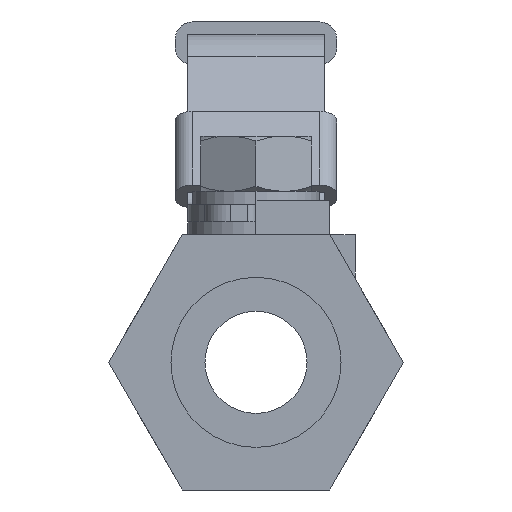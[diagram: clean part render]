
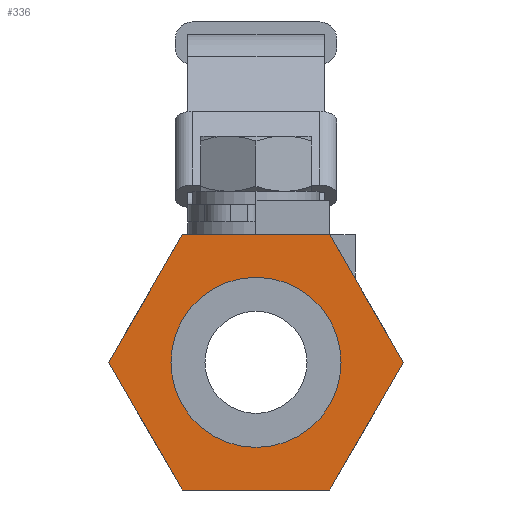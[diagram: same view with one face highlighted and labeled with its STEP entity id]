
A CAD part, left-side view. The second image highlights one B-rep face of the part: STEP entity #336.
In plain terms, the highlighted planar face has unit normal (-1, 0, 0) as drawn and (1, 0, 0) by its records, which use the part's own axes.
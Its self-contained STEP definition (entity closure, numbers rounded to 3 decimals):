
#336=ADVANCED_FACE('',(#1517,#1518),#1516,.F.);
#1516=PLANE('',#2496);
#1517=FACE_OUTER_BOUND('',#2497,.T.);
#1518=FACE_BOUND('',#2498,.T.);
#2493=CARTESIAN_POINT('',(59.,-3.464,-3.));
#2494=DIRECTION('',(-1.,0.,0.));
#2495=DIRECTION('',(0.,0.,1.));
#2496=AXIS2_PLACEMENT_3D('',#2493,#2494,#2495);
#2497=EDGE_LOOP('',(#3222,#3223,#3224,#3225,#3226,#3227));
#2498=EDGE_LOOP('',(#3228,#3229));
#3222=ORIENTED_EDGE('',*,*,#3670,.T.);
#3223=ORIENTED_EDGE('',*,*,#3662,.T.);
#3224=ORIENTED_EDGE('',*,*,#3680,.T.);
#3225=ORIENTED_EDGE('',*,*,#3681,.T.);
#3226=ORIENTED_EDGE('',*,*,#3682,.T.);
#3227=ORIENTED_EDGE('',*,*,#3683,.T.);
#3228=ORIENTED_EDGE('',*,*,#3684,.F.);
#3229=ORIENTED_EDGE('',*,*,#3685,.F.);
#3662=EDGE_CURVE('',#5610,#5603,#5611,.T.);
#3670=EDGE_CURVE('',#5664,#5610,#5665,.T.);
#3680=EDGE_CURVE('',#5603,#5732,#5733,.T.);
#3681=EDGE_CURVE('',#5732,#5739,#5740,.T.);
#3682=EDGE_CURVE('',#5739,#5746,#5747,.T.);
#3683=EDGE_CURVE('',#5746,#5664,#5753,.T.);
#3684=EDGE_CURVE('',#5759,#5760,#5761,.T.);
#3685=EDGE_CURVE('',#5760,#5759,#5767,.T.);
#5603=VERTEX_POINT('',#7329);
#5610=VERTEX_POINT('',#7333);
#5611=LINE('',#7334,#7335);
#5664=VERTEX_POINT('',#7363);
#5665=LINE('',#7364,#7365);
#5732=VERTEX_POINT('',#7403);
#5733=LINE('',#7404,#7405);
#5739=VERTEX_POINT('',#7407);
#5740=LINE('',#7408,#7409);
#5746=VERTEX_POINT('',#7411);
#5747=LINE('',#7412,#7413);
#5753=LINE('',#7415,#7416);
#5759=VERTEX_POINT('',#7418);
#5760=VERTEX_POINT('',#7419);
#5761=CIRCLE('',#7423,10.);
#5767=CIRCLE('',#7427,10.);
#7329=CARTESIAN_POINT('',(59.,8.66,30.));
#7333=CARTESIAN_POINT('',(59.,25.981,30.));
#7334=CARTESIAN_POINT('',(59.,25.981,30.));
#7335=VECTOR('',#7336,17.321);
#7336=DIRECTION('',(0.,-1.,0.));
#7363=CARTESIAN_POINT('',(59.,34.641,15.));
#7364=CARTESIAN_POINT('',(59.,34.641,15.));
#7365=VECTOR('',#7366,17.321);
#7366=DIRECTION('',(0.,-0.5,0.866));
#7403=CARTESIAN_POINT('',(59.,0.,15.));
#7404=CARTESIAN_POINT('',(59.,8.66,30.));
#7405=VECTOR('',#7406,17.321);
#7406=DIRECTION('',(0.,-0.5,-0.866));
#7407=CARTESIAN_POINT('',(59.,8.66,0.));
#7408=CARTESIAN_POINT('',(59.,0.,15.));
#7409=VECTOR('',#7410,17.321);
#7410=DIRECTION('',(0.,0.5,-0.866));
#7411=CARTESIAN_POINT('',(59.,25.981,0.));
#7412=CARTESIAN_POINT('',(59.,8.66,0.));
#7413=VECTOR('',#7414,17.321);
#7414=DIRECTION('',(0.,1.,0.));
#7415=CARTESIAN_POINT('',(59.,25.981,0.));
#7416=VECTOR('',#7417,17.321);
#7417=DIRECTION('',(0.,0.5,0.866));
#7418=CARTESIAN_POINT('',(59.,17.321,5.));
#7419=CARTESIAN_POINT('',(59.,17.321,25.));
#7420=CARTESIAN_POINT('',(59.,17.321,15.));
#7421=DIRECTION('',(1.,0.,0.));
#7422=DIRECTION('',(0.,0.,1.));
#7423=AXIS2_PLACEMENT_3D('',#7420,#7421,#7422);
#7424=CARTESIAN_POINT('',(59.,17.321,15.));
#7425=DIRECTION('',(1.,0.,0.));
#7426=DIRECTION('',(0.,0.,1.));
#7427=AXIS2_PLACEMENT_3D('',#7424,#7425,#7426);
